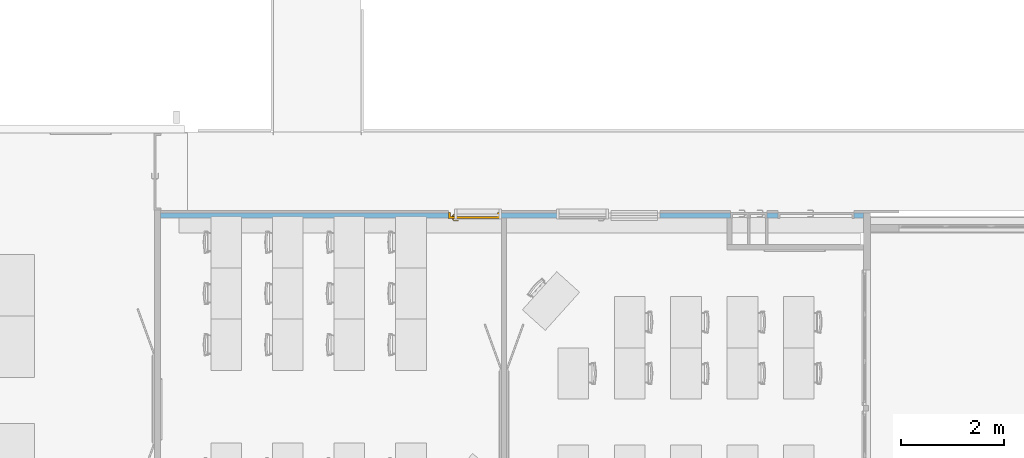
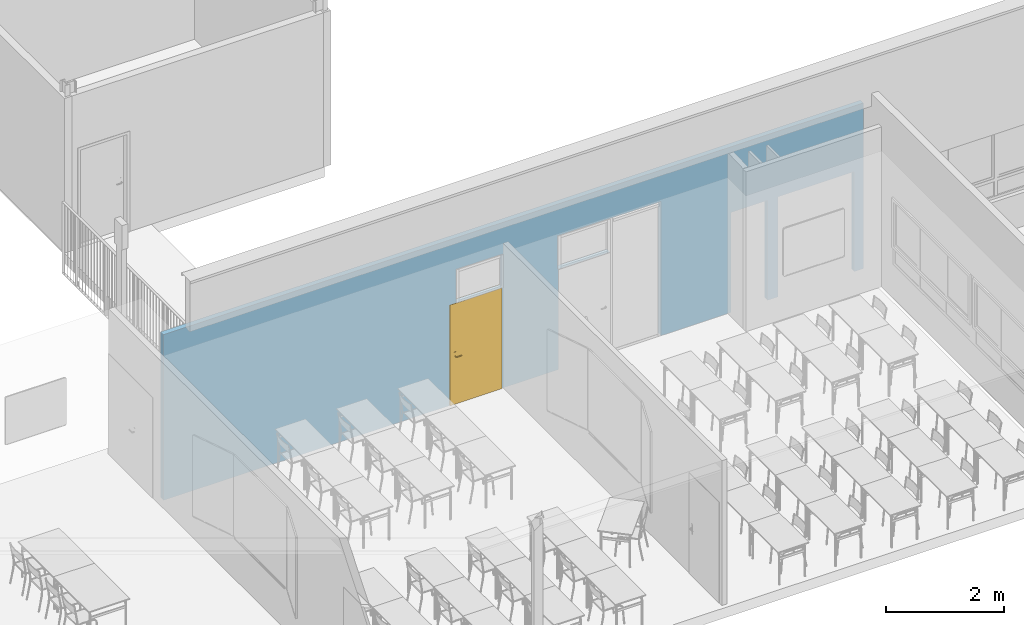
# One storey, part 34 of 44: 1 door, 8 openings, plus 1 element that does not belong to this part.
"""IFC2X3 building model written with IfcOpenShell, lengths in centimetres."""

from ifc_helpers import new_model, entity, si_unit, converted_unit, derived_unit, direction, frame, frame_2d, origin, place, context, subcontext, project, spatial, rectangle, extrude, faceted_brep, source, transform, mapped, material, material_list, layer, layer_set, layer_usage, type_object, type_shapes, element, fill, save


model = new_model("IFC2X3")

# Units and contexts
model_context = context("Model", 3, precision=0.001, world=origin(), true_north=direction((6.12303176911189e-17, 1.0)))
body_context = subcontext(model_context, "Body", "Model", "MODEL_VIEW")
ifc_project = project(units=[si_unit("LENGTHUNIT", "METRE", prefix="CENTI"), si_unit("AREAUNIT", "SQUARE_METRE"), si_unit("VOLUMEUNIT", "CUBIC_METRE"), converted_unit("PLANEANGLEUNIT", "DEGREE", entity("IfcRatioMeasure", 0.0174532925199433), si_unit("PLANEANGLEUNIT", "RADIAN"), dimensions=[0, 0, 0, 0, 0, 0, 0]), si_unit("MASSUNIT", "GRAM", prefix="KILO"), si_unit("TIMEUNIT", "SECOND"), si_unit("FREQUENCYUNIT", "HERTZ"), si_unit("THERMODYNAMICTEMPERATUREUNIT", "DEGREE_CELSIUS"), derived_unit("THERMALTRANSMITTANCEUNIT", [(si_unit("MASSUNIT", "GRAM", prefix="KILO"), 1), (si_unit("THERMODYNAMICTEMPERATUREUNIT", "KELVIN"), -1), (si_unit("TIMEUNIT", "SECOND"), -3)]), derived_unit("VOLUMETRICFLOWRATEUNIT", [(si_unit("LENGTHUNIT", "METRE"), 3), (si_unit("TIMEUNIT", "SECOND"), -1)]), si_unit("ELECTRICCURRENTUNIT", "AMPERE"), si_unit("ELECTRICVOLTAGEUNIT", "VOLT"), si_unit("POWERUNIT", "WATT"), si_unit("FORCEUNIT", "NEWTON", prefix="KILO"), si_unit("ILLUMINANCEUNIT", "LUX"), si_unit("LUMINOUSFLUXUNIT", "LUMEN"), si_unit("LUMINOUSINTENSITYUNIT", "CANDELA"), derived_unit("USERDEFINED", [(si_unit("MASSUNIT", "GRAM", prefix="KILO"), -1), (si_unit("LENGTHUNIT", "METRE"), -2), (si_unit("TIMEUNIT", "SECOND"), 3), (si_unit("LUMINOUSFLUXUNIT", "LUMEN"), 1)]), derived_unit("LINEARVELOCITYUNIT", [(si_unit("LENGTHUNIT", "METRE"), 1), (si_unit("TIMEUNIT", "SECOND"), -1)]), si_unit("PRESSUREUNIT", "PASCAL"), derived_unit("USERDEFINED", [(si_unit("LENGTHUNIT", "METRE"), -2), (si_unit("MASSUNIT", "GRAM", prefix="KILO"), 1), (si_unit("TIMEUNIT", "SECOND"), -2)])], contexts=[model_context])

# Site, building, storey
site_placement = place(None, frame((8.62739174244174, -249.285249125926, 0.0)))
site = spatial("IfcSite", under=ifc_project, at=site_placement, Name="Default", CompositionType="ELEMENT")
building_placement = place(site_placement, origin())
building = spatial("IfcBuilding", under=site, at=building_placement, CompositionType="ELEMENT")
storey_placement = place(building_placement, frame((0.0, 0.0, 343.0)))
storey = spatial("IfcBuildingStorey", under=building, at=storey_placement, Name="R+1", CompositionType="ELEMENT", Elevation=343.0)

# Wall, openings, door
ifc_material_1 = material(Name="Plâtre EXISTANT")
ifc_layer = layer(ifc_material_1, 10.0)
ifc_layer_set = layer_set([ifc_layer], Name="Mur de base:PLA EXISTANT 10")
ifc_layer_usage = layer_usage(ifc_layer_set, "AXIS2", "POSITIVE", -5.0)
wall_type = type_object("IfcWallType", Name="Mur de base:PLA EXISTANT 10", PredefinedType="STANDARD", material=ifc_layer_set)
wall_placement = place(storey_placement, frame((803.905471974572, 770.0, 0.0)))
wall = element("IfcWallStandardCase", 1, at=wall_placement, inside=storey, type_object=wall_type, material=ifc_layer_usage, Name="Mur de base:PLA EXISTANT 10", ObjectType="Mur de base:PLA EXISTANT 10", context=body_context, shape_type="SweptSolid", body=[
    extrude(rectangle(XDim=1370.99935583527, YDim=10.0000000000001, at=frame_2d((685.499677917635, 2.22044604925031e-15), x_axis=(-1.0, 0.0))), origin(), (0.0, 0.0, 1.0), 343.000000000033),
])
opening_1_placement = place(wall_placement, origin())
element("IfcOpeningElement", 2, at=opening_1_placement, cuts=wall, Name="Mur de base:PLA EXISTANT 10", ObjectType="Opening", context=body_context, shape_type="SweptSolid", body=[
    extrude(rectangle(XDim=69.4999999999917, YDim=102.0, at=frame_2d((-5.32907051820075e-14, 0.0), x_axis=(1.0, 0.0))), frame((822.999355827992, -20.2399999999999, 243.249999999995), z_axis=(0.0, 1.0, 0.0), x_axis=(0.0, 0.0, 1.0)), (0.0, 0.0, 1.0), 40.48),
])
opening_2_placement = place(wall_placement, origin())
element("IfcOpeningElement", 3, at=opening_2_placement, cuts=wall, Name="Mur de base:PLA EXISTANT 10", ObjectType="Opening", context=body_context, shape_type="SweptSolid", body=[
    extrude(rectangle(XDim=277.999999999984, YDim=100.0, at=frame_2d((2.16715534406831e-13, 0.0), x_axis=(0.0, 1.0))), frame((923.999355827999, -20.2399999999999, 139.0), z_axis=(0.0, 1.0, 0.0), x_axis=(-1.0, 0.0, 0.0)), (0.0, 0.0, 1.0), 40.48),
])
opening_3_placement = place(wall_placement, origin())
element("IfcOpeningElement", 4, at=opening_3_placement, cuts=wall, Name="Mur de base:PLA EXISTANT 10", ObjectType="Opening", context=body_context, shape_type="SweptSolid", body=[
    extrude(rectangle(XDim=69.4999999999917, YDim=91.9506441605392, at=frame_2d((-2.1316282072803e-13, -5.32907051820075e-14), x_axis=(0.0, 1.0))), frame((619.02467791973, -20.2399999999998, 243.249999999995), z_axis=(0.0, 1.0, 0.0), x_axis=(-1.0, 0.0, 0.0)), (0.0, 0.0, 1.0), 40.48),
])
opening_4_placement = place(wall_placement, frame((873.999355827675, 5.0, 0.0)))
element("IfcOpeningElement", 5, at=opening_4_placement, cuts=wall, Name="Simple(R)_bois_mu:93 x 204 cm:1", ObjectType="Opening", context=body_context, shape_type="SweptSolid", body=[
    extrude(rectangle(XDim=207.499999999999, YDim=99.9999999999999, at=frame_2d((103.749999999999, 50.0), x_axis=(1.0, 0.0))), frame((0.0, 0.0, 0.0), z_axis=(0.0, -1.0, 0.0), x_axis=(0.0, 0.0, 1.0)), (0.0, 0.0, 1.0), 10.0),
])
opening_5_placement = place(wall_placement, frame((661.524677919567, 5.0, 0.0)))
opening_5 = element("IfcOpeningElement", 6, at=opening_5_placement, cuts=wall, Name="Simple(R)_bois_mu:93 x 204 cm:1", ObjectType="Opening", context=body_context, shape_type="SweptSolid", body=[
    extrude(rectangle(XDim=207.499999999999, YDim=99.9999999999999, at=frame_2d((103.749999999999, 50.0), x_axis=(1.0, 0.0))), frame((0.0, 0.0, 0.0), z_axis=(0.0, -1.0, 0.0), x_axis=(0.0, 0.0, 1.0)), (0.0, 0.0, 1.0), 10.0),
])
opening_6_placement = place(wall_placement, frame((1146.99935582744, -5.0, 0.0)))
element("IfcOpeningElement", 7, at=opening_6_placement, cuts=wall, Name="Simple(R)_bois_Existant_mu:30 x 204 cm:1", ObjectType="Opening", context=body_context, shape_type="SweptSolid", body=[
    extrude(rectangle(XDim=206.999999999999, YDim=36.0, at=frame_2d((103.499999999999, 18.0000000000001), x_axis=(1.0, 0.0))), frame((0.0, 0.0, 0.0), z_axis=(0.0, 1.0, 0.0), x_axis=(0.0, 0.0, 1.0)), (0.0, 0.0, 1.0), 10.0),
])
opening_7_placement = place(wall_placement, frame((1111.99935583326, -5.0, 0.0)))
element("IfcOpeningElement", 8, at=opening_7_placement, cuts=wall, Name="Simple(R)_bois_Existant_mu:30 x 204 cm:1", ObjectType="Opening", context=body_context, shape_type="SweptSolid", body=[
    extrude(rectangle(XDim=206.999999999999, YDim=36.0, at=frame_2d((103.499999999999, 18.0000000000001), x_axis=(1.0, 0.0))), frame((0.0, 0.0, 0.0), z_axis=(0.0, 1.0, 0.0), x_axis=(0.0, 0.0, 1.0)), (0.0, 0.0, 1.0), 10.0),
])
opening_8_placement = place(wall_placement, frame((1203.99935583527, -5.0, 0.0)))
element("IfcOpeningElement", 9, at=opening_8_placement, cuts=wall, Name="Double(R)_bois_Existant_mu:143 x 204 cm:1", ObjectType="Opening", context=body_context, shape_type="SweptSolid", body=[
    extrude(rectangle(XDim=206.999999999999, YDim=149.0, at=frame_2d((103.499999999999, 74.5), x_axis=(1.0, 0.0))), frame((0.0, 0.0, 0.0), z_axis=(0.0, 1.0, 0.0), x_axis=(0.0, 0.0, 1.0)), (0.0, 0.0, 1.0), 10.0),
])
ifc_material_2 = material(Name="Porte - Poignée")
ifc_material_3 = material(Name="Porte - Cadre")
ifc_material_4 = material(Name="Porte - Panneau")
ifc_material_list_1 = material_list([ifc_material_2, ifc_material_3, ifc_material_4])
ifc_material_list_2 = material_list([ifc_material_2, ifc_material_3, ifc_material_4])
door_style = type_object("IfcDoorStyle", Name="93 x 204 cm", ConstructionType="NOTDEFINED", OperationType="SINGLE_SWING_RIGHT", ParameterTakesPrecedence=False, Sizeable=False, material=ifc_material_list_2)
shared_shape = source(origin(), body_context, "Body", "Brep", [
    faceted_brep([(8.79747013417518, 3.69999999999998, 100.778044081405), (8.3999999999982, 3.69999999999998, 100.699999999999), (8.39999999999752, 3.69999999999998, 99.2999999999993), (8.79747013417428, 3.69999999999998, 99.2219559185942), (9.20252986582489, 3.69999999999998, 99.2219559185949), (9.60000000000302, 3.69999999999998, 99.3000000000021), (9.60000000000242, 3.69999999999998, 100.699999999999), (9.2025298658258, 3.69999999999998, 100.778044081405), (9.60000000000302, 5.94852045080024, 99.3000000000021), (9.60000000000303, 5.94852045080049, 100.699999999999), (9.20252986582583, 6.1131579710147, 100.778044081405), (10.5838906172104, 7.49451872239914, 100.778044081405), (10.4161093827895, 7.89957845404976, 100.778044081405), (8.79747013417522, 6.2809392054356, 100.778044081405), (19.5684749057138, 6.84673156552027, 100.778044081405), (19.8548953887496, 7.13315204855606, 100.778044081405), (19.0884689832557, 7.89957845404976, 100.778044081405), (18.9206877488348, 7.49451872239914, 100.778044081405), (8.39999999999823, 6.44557672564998, 100.699999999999), (8.3999999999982, 6.44557672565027, 99.2999999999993), (8.79747013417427, 6.28093920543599, 99.2219559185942), (10.4161093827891, 7.8995784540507, 99.2219559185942), (10.58389061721, 7.49451872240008, 99.2219559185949), (9.20252986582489, 6.11315797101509, 99.2219559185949), (19.8548953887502, 7.13315204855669, 99.2219559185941), (19.5684749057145, 6.84673156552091, 99.2219559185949), (18.9206877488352, 7.49451872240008, 99.2219559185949), (19.088468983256, 7.8995784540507, 99.2219559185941), (10.7485281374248, 7.09704858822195, 99.3000000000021), (10.748528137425, 7.09704858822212, 100.699999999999), (10.2514718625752, 8.29704858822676, 100.699999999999), (10.2514718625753, 8.29704858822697, 99.2999999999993), (14.7522904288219, 7.09704858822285, 99.3000000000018), (18.7560502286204, 7.09704858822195, 99.3000000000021), (18.7560502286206, 7.09704858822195, 100.699999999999), (14.7522891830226, 7.09704858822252, 100.699999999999), (14.7522891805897, 7.71249275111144, 100.787811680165), (19.25310650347, 8.29704858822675, 100.699999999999), (15.2600577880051, 8.29704858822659, 100.699999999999), (19.2531065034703, 8.29704858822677, 99.2999999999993), (14.2445206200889, 8.29704858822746, 99.2999999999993), (14.7522892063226, 7.71249274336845, 99.2121883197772), (19.2874210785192, 6.56567773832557, 99.3000000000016), (20.1359492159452, 7.41420587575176, 99.2999999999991), (20.135949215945, 7.4142058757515, 100.699999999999), (19.287421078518, 6.5656777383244, 100.699999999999)], [[[0, 1, 2, 3, 4, 5, 6, 7]], [[6, 5, 8, 9]], [[9, 10, 7, 6]], [[10, 11, 12, 13, 0, 7]], [[14, 15, 16, 17]], [[13, 18, 1, 0]], [[2, 1, 18, 19]], [[19, 20, 3, 2]], [[20, 21, 22, 23, 4, 3]], [[24, 25, 26, 27]], [[23, 8, 5, 4]], [[9, 8, 28, 29]], [[29, 11, 10, 9]], [[12, 30, 18, 13]], [[19, 18, 30, 31]], [[31, 21, 20, 19]], [[22, 28, 8, 23]], [[29, 28, 32, 33, 34, 35]], [[11, 35, 36]], [[16, 37, 38]], [[30, 12, 38]], [[38, 12, 36]], [[36, 35, 17]], [[17, 16, 36]], [[35, 11, 29]], [[34, 17, 35]], [[11, 36, 12]], [[38, 36, 16]], [[31, 30, 38, 37, 39, 40]], [[40, 41, 21]], [[41, 40, 27]], [[21, 31, 40]], [[39, 27, 40]], [[41, 32, 22]], [[22, 21, 41]], [[26, 32, 41]], [[28, 22, 32]], [[32, 26, 33]], [[26, 41, 27]], [[42, 25, 24, 43, 44, 15, 14, 45]], [[34, 33, 42, 45]], [[45, 14, 17, 34]], [[15, 44, 37, 16]], [[39, 37, 44, 43]], [[43, 24, 27, 39]], [[25, 42, 33, 26]]]),
    faceted_brep([(8.79747013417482, -1.30000000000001, 100.778044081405), (9.20252986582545, -1.30000000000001, 100.778044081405), (9.6000000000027, -1.30000000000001, 100.699999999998), (9.60000000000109, -1.30000000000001, 99.3000000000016), (9.20252986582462, -1.30000000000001, 99.2219559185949), (8.79747013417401, -1.30000000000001, 99.2219559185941), (8.39999999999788, -1.30000000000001, 99.2999999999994), (8.39999999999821, -1.30000000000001, 100.699999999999), (8.39999999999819, -4.06509507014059, 100.699999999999), (8.7974701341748, -3.90045754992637, 100.778044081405), (10.402358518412, -5.50534593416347, 100.778044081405), (10.5701397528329, -5.10028620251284, 100.778044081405), (9.20252986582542, -3.73267631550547, 100.778044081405), (19.852181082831, -4.73891952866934, 100.778044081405), (19.5657605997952, -4.4524990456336, 100.778044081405), (18.9179734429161, -5.10028620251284, 100.778044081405), (19.085754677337, -5.50534593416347, 100.778044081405), (9.60000000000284, -3.56803879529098, 100.699999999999), (9.6000000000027, -3.56803879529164, 99.3000000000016), (9.20252986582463, -3.7326763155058, 99.2219559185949), (10.5701397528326, -5.10028620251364, 99.2219559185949), (10.4023585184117, -5.50534593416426, 99.2219559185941), (8.79747013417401, -3.9004575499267, 99.2219559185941), (19.5657605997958, -4.45249904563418, 99.2219559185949), (19.8521810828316, -4.73891952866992, 99.2219559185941), (19.0857546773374, -5.50534593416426, 99.2219559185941), (18.9179734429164, -5.10028620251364, 99.2219559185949), (8.39999999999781, -4.06509507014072, 99.2999999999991), (10.2377209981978, -5.90281606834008, 100.699999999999), (10.7347772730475, -4.70281606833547, 100.699999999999), (10.7347772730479, -4.70281606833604, 99.3000000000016), (10.2377209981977, -5.90281606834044, 99.2999999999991), (14.2307697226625, -5.90281606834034, 100.699999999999), (14.7440566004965, -5.31828027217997, 100.787811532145), (19.2503921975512, -5.90281606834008, 100.699999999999), (14.7440565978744, -4.70281606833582, 100.699999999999), (18.7533359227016, -4.70281606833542, 100.699999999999), (18.7533359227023, -4.70281606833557, 99.3000000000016), (14.7440563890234, -4.70281606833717, 99.3000000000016), (14.744056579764, -5.31828027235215, 99.2121884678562), (19.2503921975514, -5.90281606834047, 99.2999999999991), (15.2573433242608, -5.90281606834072, 99.2999999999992), (19.2847067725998, -4.1714452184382, 100.699999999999), (20.1332349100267, -5.01997335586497, 100.699999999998), (20.1332349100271, -5.01997335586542, 99.2999999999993), (19.2847067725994, -4.17144521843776, 99.3000000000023)], [[[0, 1, 2, 3, 4, 5, 6, 7]], [[8, 9, 0, 7]], [[9, 10, 11, 12, 1, 0]], [[13, 14, 15, 16]], [[12, 17, 2, 1]], [[3, 2, 17, 18]], [[18, 19, 4, 3]], [[19, 20, 21, 22, 5, 4]], [[23, 24, 25, 26]], [[22, 27, 6, 5]], [[7, 6, 27, 8]], [[28, 10, 9, 8]], [[11, 29, 17, 12]], [[18, 17, 29, 30]], [[30, 20, 19, 18]], [[21, 31, 27, 22]], [[8, 27, 31, 28]], [[32, 33, 10]], [[33, 32, 16]], [[10, 28, 32]], [[34, 16, 32]], [[33, 35, 11]], [[11, 10, 33]], [[15, 35, 33]], [[29, 11, 35]], [[35, 15, 36]], [[15, 33, 16]], [[30, 29, 35, 36, 37, 38]], [[20, 38, 39]], [[25, 40, 41]], [[31, 21, 41]], [[41, 21, 39]], [[39, 38, 26]], [[26, 25, 39]], [[38, 20, 30]], [[37, 26, 38]], [[20, 39, 21]], [[41, 39, 25]], [[28, 31, 41, 40, 34, 32]], [[42, 14, 13, 43, 44, 24, 23, 45]], [[43, 13, 16, 34]], [[14, 42, 36, 15]], [[37, 36, 42, 45]], [[45, 23, 26, 37]], [[24, 44, 40, 25]], [[34, 40, 44, 43]]]),
    faceted_brep([(10.03527618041, 3.19999999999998, 86.6003983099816), (11.0, 3.19999999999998, 87.0), (11.0, 3.19999999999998, 108.0), (10.03527618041, 3.19999999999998, 108.399601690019), (9.0, 3.19999999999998, 108.535898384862), (7.96472381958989, 3.19999999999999, 108.399601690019), (7.0, 3.19999999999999, 108.0), (7.0, 3.19999999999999, 87.0), (7.96472381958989, 3.19999999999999, 86.6003983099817), (9.0, 3.19999999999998, 86.4641016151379), (10.03527618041, 3.69999999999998, 108.399601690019), (11.0, 3.69999999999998, 108.0), (11.0, 3.69999999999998, 87.0), (10.03527618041, 3.69999999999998, 86.6003983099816), (9.0, 3.69999999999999, 86.4641016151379), (7.96472381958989, 3.69999999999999, 86.6003983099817), (7.0, 3.69999999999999, 87.0), (7.0, 3.69999999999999, 108.0), (7.96472381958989, 3.69999999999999, 108.399601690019), (9.0, 3.69999999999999, 108.535898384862)], [[[0, 1, 2, 3, 4, 5, 6, 7, 8, 9]], [[10, 11, 12, 13, 14, 15, 16, 17, 18, 19]], [[11, 10, 3, 2]], [[3, 10, 19, 4]], [[19, 18, 5, 4]], [[18, 17, 6, 5]], [[7, 6, 17, 16]], [[16, 15, 8, 7]], [[8, 15, 14, 9]], [[14, 13, 0, 9]], [[13, 12, 1, 0]], [[2, 1, 12, 11]]]),
    faceted_brep([(10.03527618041, -1.30000000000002, 86.6003983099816), (11.0, -1.30000000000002, 87.0), (11.0, -1.30000000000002, 108.0), (10.03527618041, -1.30000000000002, 108.399601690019), (9.0, -1.30000000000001, 108.535898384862), (7.9647238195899, -1.30000000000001, 108.399601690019), (7.0, -1.30000000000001, 108.0), (7.0, -1.30000000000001, 87.0), (7.96472381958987, -1.30000000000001, 86.6003983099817), (9.0, -1.30000000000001, 86.4641016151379), (10.03527618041, -0.800000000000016, 108.399601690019), (11.0, -0.800000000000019, 108.0), (11.0, -0.800000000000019, 87.0), (10.03527618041, -0.800000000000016, 86.6003983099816), (9.0, -0.800000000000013, 86.4641016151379), (7.96472381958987, -0.800000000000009, 86.6003983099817), (7.0, -0.800000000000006, 87.0), (7.0, -0.800000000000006, 108.0), (7.9647238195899, -0.800000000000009, 108.399601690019), (9.0, -0.800000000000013, 108.535898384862)], [[[0, 1, 2, 3, 4, 5, 6, 7, 8, 9]], [[10, 11, 12, 13, 14, 15, 16, 17, 18, 19]], [[16, 15, 8, 7]], [[8, 15, 14, 9]], [[14, 13, 0, 9]], [[13, 12, 1, 0]], [[2, 1, 12, 11]], [[11, 10, 3, 2]], [[3, 10, 19, 4]], [[19, 18, 5, 4]], [[18, 17, 6, 5]], [[7, 6, 17, 16]]]),
    faceted_brep([(0.0, 0.0, 0.0), (0.0, 10.0, 0.0), (-1.0, 10.0, 0.0), (-1.0, 10.8000000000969, 0.0), (4.49999999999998, 10.8000000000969, 0.0), (4.49999999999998, 3.2, 0.0), (3.49999999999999, 3.2, 0.0), (3.49999999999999, -0.799999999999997, 0.0), (-1.0, -0.799999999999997, 0.0), (-1.0, 0.0, 0.0), (0.0, 0.0, 207.499999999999), (0.0, 10.0, 207.499999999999), (100.0, 10.0, 207.499999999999), (100.0, 10.0, 0.0), (101.0, 10.0, 0.0), (101.0, 10.0, 208.499999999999), (-1.0, 10.0, 208.499999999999), (-1.0, 10.8000000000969, 208.499999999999), (101.0, 10.8000000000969, 208.499999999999), (101.0, 10.8000000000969, 0.0), (95.5, 10.8000000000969, 0.0), (95.5, 10.8000000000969, 203.0), (4.49999999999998, 10.8000000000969, 203.0), (4.49999999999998, 3.2, 203.0), (95.5, 3.2, 203.0), (95.5, 3.2, 0.0), (96.5, 3.2, 0.0), (96.5, 3.2, 204.0), (3.49999999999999, 3.2, 204.0), (3.49999999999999, -0.799999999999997, 204.0), (96.5, -0.799999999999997, 204.0), (96.5, -0.799999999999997, 0.0), (101.0, -0.799999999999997, 0.0), (101.0, -0.799999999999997, 208.499999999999), (-1.0, -0.799999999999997, 208.499999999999), (-1.0, 0.0, 208.499999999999), (101.0, 0.0, 208.499999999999), (101.0, 0.0, 0.0), (100.0, 0.0, 0.0), (100.0, 0.0, 207.499999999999)], [[[0, 1, 2, 3, 4, 5, 6, 7, 8, 9]], [[1, 0, 10, 11]], [[2, 1, 11, 12, 13, 14, 15, 16]], [[3, 2, 16, 17]], [[4, 3, 17, 18, 19, 20, 21, 22]], [[5, 4, 22, 23]], [[6, 5, 23, 24, 25, 26, 27, 28]], [[7, 6, 28, 29]], [[8, 7, 29, 30, 31, 32, 33, 34]], [[9, 8, 34, 35]], [[0, 9, 35, 36, 37, 38, 39, 10]], [[12, 39, 38, 13]], [[38, 37, 32, 31, 26, 25, 20, 19, 14, 13]], [[18, 15, 14, 19]], [[24, 21, 20, 25]], [[30, 27, 26, 31]], [[36, 33, 32, 37]], [[11, 10, 39, 12]], [[17, 16, 15, 18]], [[23, 22, 21, 24]], [[29, 28, 27, 30]], [[35, 34, 33, 36]]]),
    faceted_brep([(3.49999999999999, -0.799999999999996, 204.0), (3.49999999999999, -0.799999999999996, 0.0), (96.5, -0.799999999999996, 0.0), (96.5, -0.799999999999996, 204.0), (3.49999999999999, 3.2, 204.0), (96.5, 3.2, 204.0), (96.5, 3.2, 0.0), (3.49999999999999, 3.2, 0.0)], [[[0, 1, 2, 3]], [[4, 5, 6, 7]], [[1, 0, 4, 7]], [[2, 1, 7, 6]], [[3, 2, 6, 5]], [[0, 3, 5, 4]]]),
])
type_shapes(door_style, [shared_shape])
door_placement = place(opening_5_placement, frame((-100.0, -10.0, 0.0)))
door = element("IfcDoor", 10, at=door_placement, inside=storey, type_object=door_style, material=ifc_material_list_1, Name="Simple(R)_bois_mu:93 x 204 cm", ObjectType="93 x 204 cm", OverallHeight=207.499999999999, OverallWidth=100.0, context=body_context, shape_type="MappedRepresentation", body=[
    mapped(shared_shape, transform((0.0, 0.0, 0.0), scale=1.0)),
])
fill(opening_5, door)

save(model, "model.ifc")
